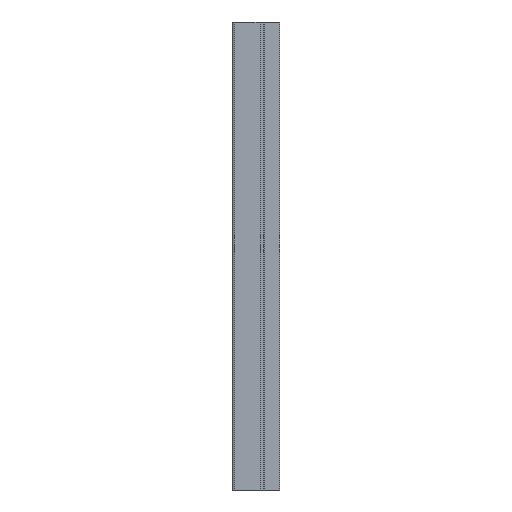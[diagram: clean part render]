
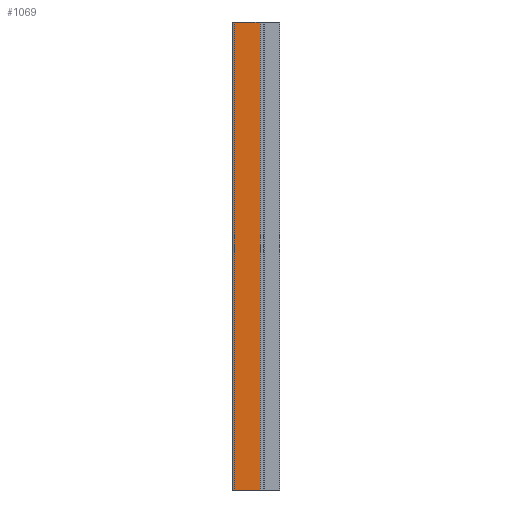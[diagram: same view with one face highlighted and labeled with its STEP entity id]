
A CAD part, left-side view. The second image highlights one B-rep face of the part: STEP entity #1069.
In plain terms, the highlighted planar face has unit normal (-1, 0, 0).
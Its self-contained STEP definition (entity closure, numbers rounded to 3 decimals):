
#39 = CARTESIAN_POINT ( 'NONE',  ( -4.25, 45.7, 0. ) ) ;
#42 = ORIENTED_EDGE ( 'NONE', *, *, #280, .F. ) ;
#115 = DIRECTION ( 'NONE',  ( 0., 1., 0. ) ) ;
#140 = VECTOR ( 'NONE', #335, 1000. ) ;
#142 = VERTEX_POINT ( 'NONE', #180 ) ;
#166 = VECTOR ( 'NONE', #346, 1000. ) ;
#176 = ORIENTED_EDGE ( 'NONE', *, *, #981, .T. ) ;
#180 = CARTESIAN_POINT ( 'NONE',  ( -4.25, 106.75, 1100. ) ) ;
#243 = EDGE_CURVE ( 'NONE', #382, #372, #786, .T. ) ;
#247 = CARTESIAN_POINT ( 'NONE',  ( -4.25, 45.7, 1100. ) ) ;
#262 = VECTOR ( 'NONE', #115, 1000. ) ;
#280 = EDGE_CURVE ( 'NONE', #503, #382, #423, .T. ) ;
#300 = CARTESIAN_POINT ( 'NONE',  ( -4.25, 106.75, 0. ) ) ;
#301 = PLANE ( 'NONE',  #636 ) ;
#335 = DIRECTION ( 'NONE',  ( 0., 1., 0. ) ) ;
#346 = DIRECTION ( 'NONE',  ( 0., 0., -1. ) ) ;
#372 = VERTEX_POINT ( 'NONE', #300 ) ;
#382 = VERTEX_POINT ( 'NONE', #39 ) ;
#414 = ORIENTED_EDGE ( 'NONE', *, *, #243, .F. ) ;
#423 = LINE ( 'NONE', #247, #1103 ) ;
#437 = CARTESIAN_POINT ( 'NONE',  ( -4.25, 106.75, 1100. ) ) ;
#493 = EDGE_LOOP ( 'NONE', ( #414, #42, #176, #1124 ) ) ;
#496 = CARTESIAN_POINT ( 'NONE',  ( -4.25, 0., 1100. ) ) ;
#500 = DIRECTION ( 'NONE',  ( 0., 0., -1. ) ) ;
#503 = VERTEX_POINT ( 'NONE', #925 ) ;
#566 = FACE_OUTER_BOUND ( 'NONE', #493, .T. ) ;
#570 = DIRECTION ( 'NONE',  ( 0., -1., 0. ) ) ;
#585 = DIRECTION ( 'NONE',  ( -1., 0., 0. ) ) ;
#636 = AXIS2_PLACEMENT_3D ( 'NONE', #830, #585, #570 ) ;
#786 = LINE ( 'NONE', #794, #140 ) ;
#794 = CARTESIAN_POINT ( 'NONE',  ( -4.25, 0., 0. ) ) ;
#811 = LINE ( 'NONE', #437, #166 ) ;
#830 = CARTESIAN_POINT ( 'NONE',  ( -4.25, 0., 1100. ) ) ;
#925 = CARTESIAN_POINT ( 'NONE',  ( -4.25, 45.7, 1100. ) ) ;
#942 = EDGE_CURVE ( 'NONE', #142, #372, #811, .T. ) ;
#981 = EDGE_CURVE ( 'NONE', #503, #142, #1062, .T. ) ;
#1062 = LINE ( 'NONE', #496, #262 ) ;
#1069 = ADVANCED_FACE ( 'NONE', ( #566 ), #301, .T. ) ;
#1103 = VECTOR ( 'NONE', #500, 1000. ) ;
#1124 = ORIENTED_EDGE ( 'NONE', *, *, #942, .T. ) ;
